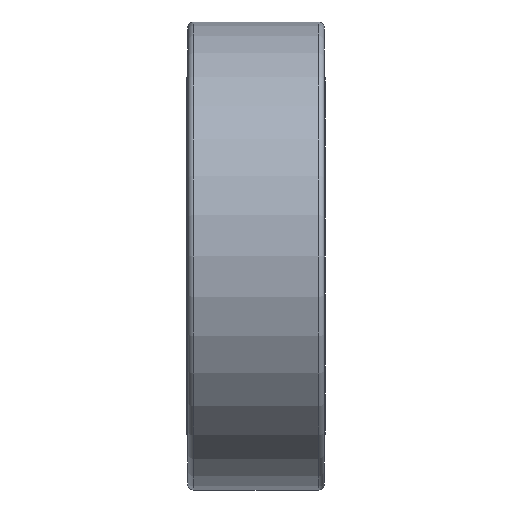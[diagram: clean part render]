
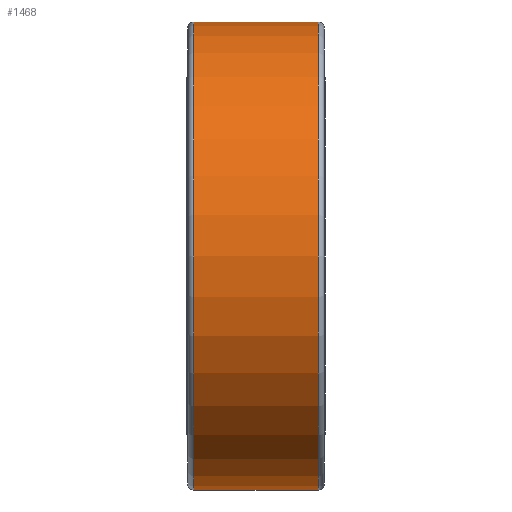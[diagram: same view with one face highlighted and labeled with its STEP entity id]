
A CAD part, front view. The second image highlights one B-rep face of the part: STEP entity #1468.
In plain terms, the highlighted cylindrical face has radius 12 mm (diameter 24 mm), a partial arc.
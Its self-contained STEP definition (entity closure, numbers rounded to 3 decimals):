
#403=CARTESIAN_POINT('',(-13.498,3.299,26.851));
#404=DIRECTION('',(-1.,0.,0.));
#405=DIRECTION('',(0.,0.,-1.));
#406=AXIS2_PLACEMENT_3D('',#403,#404,#405);
#418=DIRECTION('',(1.,0.,0.));
#419=VECTOR('',#418,6.4);
#420=CARTESIAN_POINT('',(-13.498,3.299,38.851));
#421=LINE('',#420,#419);
#457=CARTESIAN_POINT('',(-7.098,3.299,26.851));
#458=DIRECTION('',(1.,0.,0.));
#459=DIRECTION('',(0.,0.,1.));
#460=AXIS2_PLACEMENT_3D('',#457,#458,#459);
#462=DIRECTION('',(1.,0.,0.));
#463=VECTOR('',#462,6.4);
#464=CARTESIAN_POINT('',(-13.498,3.299,14.851));
#465=LINE('',#464,#463);
#892=CARTESIAN_POINT('',(-7.098,3.299,38.851));
#894=VERTEX_POINT('',#892);
#900=CARTESIAN_POINT('',(-13.498,3.299,38.851));
#902=VERTEX_POINT('',#900);
#916=CARTESIAN_POINT('',(-7.098,3.299,14.851));
#917=VERTEX_POINT('',#916);
#918=CARTESIAN_POINT('',(-13.498,3.299,14.851));
#919=VERTEX_POINT('',#918);
#1457=CARTESIAN_POINT('',(-15.319,3.299,26.851));
#1458=DIRECTION('',(-1.,0.,0.));
#1459=DIRECTION('',(0.,0.,1.));
#1460=AXIS2_PLACEMENT_3D('',#1457,#1458,#1459);
#1461=CYLINDRICAL_SURFACE('',#1460,12.);
#1462=ORIENTED_EDGE('',*,*,#1407,.F.);
#1463=ORIENTED_EDGE('',*,*,#1376,.T.);
#1464=ORIENTED_EDGE('',*,*,#1404,.T.);
#1465=ORIENTED_EDGE('',*,*,#1450,.T.);
#1466=EDGE_LOOP('',(#1462,#1463,#1464,#1465));
#1467=FACE_OUTER_BOUND('',#1466,.F.);
#1468=ADVANCED_FACE('',(#1467),#1461,.T.);
#407=CIRCLE('',#406,12.);
#461=CIRCLE('',#460,12.);
#1376=EDGE_CURVE('',#919,#902,#407,.T.);
#1404=EDGE_CURVE('',#902,#894,#421,.T.);
#1407=EDGE_CURVE('',#919,#917,#465,.T.);
#1450=EDGE_CURVE('',#894,#917,#461,.T.);
